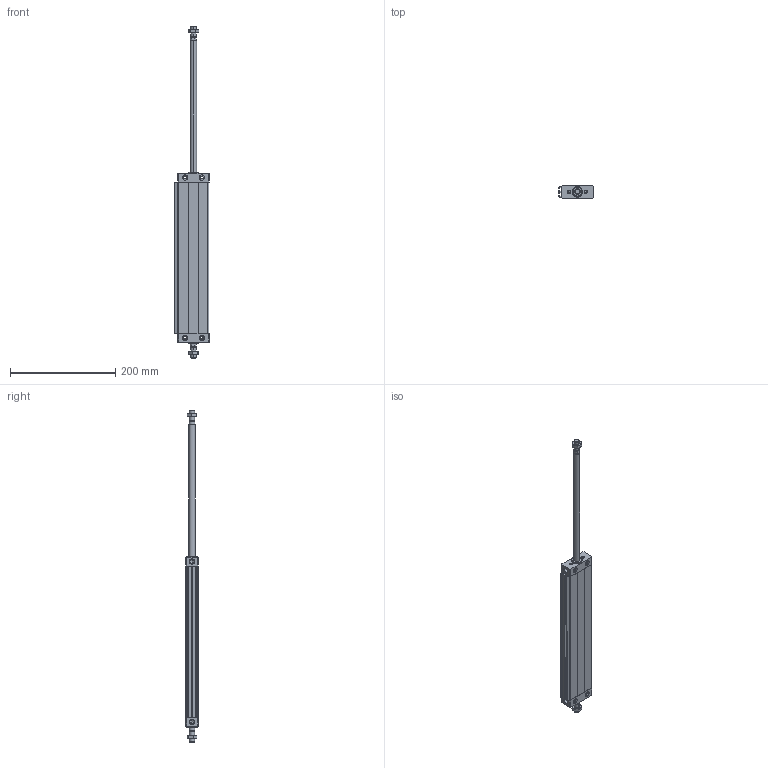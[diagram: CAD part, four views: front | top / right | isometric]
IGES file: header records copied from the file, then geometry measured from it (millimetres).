
Global section: file name: No Iges File Name specified; native system: Autodesk Inventor 2011; preprocessor: AutoDesk Inventor Iges Exporter R2011; author: airolcr1; date: 20101213.153045; units: millimetre
Bounding box: 65.5 x 24 x 632 mm (x, y, z)
Volume: 309362.8 mm3; surface area: 139122.6 mm2
Topology: 6 solids, 6 shells, 274 faces, 646 edges, 392 vertices
Faces by surface type: bspline 110, plane 96, cone 36, cylinder 18, revolution 14
